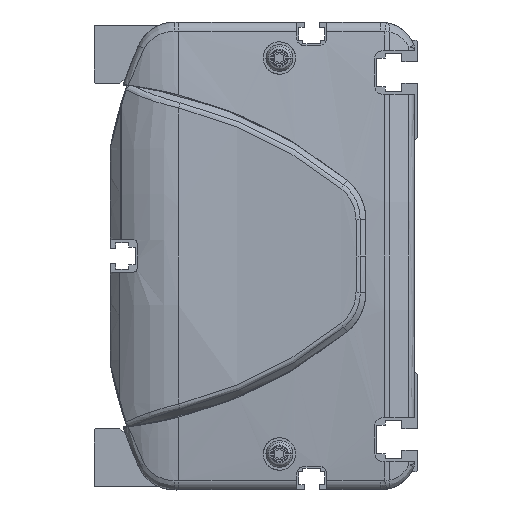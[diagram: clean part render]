
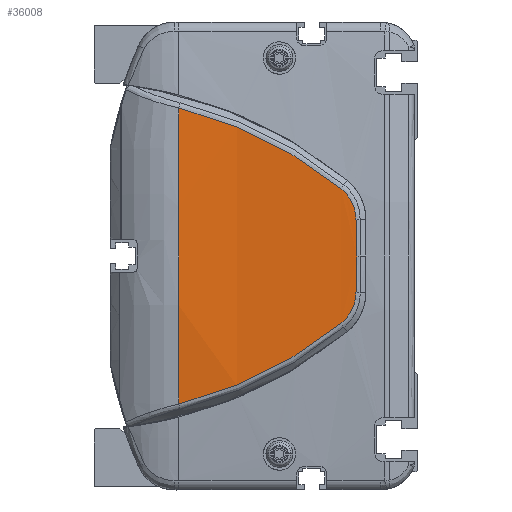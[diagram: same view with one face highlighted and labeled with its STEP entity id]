
A CAD part, left-side view. The second image highlights one B-rep face of the part: STEP entity #36008.
In plain terms, the highlighted cylindrical face has radius 500 mm (diameter 1000 mm), a partial arc.
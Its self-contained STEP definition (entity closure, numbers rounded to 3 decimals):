
#32178=CARTESIAN_POINT('',(486.,66.362,0.));
#32179=DIRECTION('',(0.,-1.,0.));
#32180=DIRECTION('',(-0.997,0.,0.082));
#32181=AXIS2_PLACEMENT_3D('',#32178,#32179,#32180);
#33068=CARTESIAN_POINT('',(-13.648,21.313,
-18.759));
#33069=CARTESIAN_POINT('',(-13.449,27.904,
-24.058));
#33070=CARTESIAN_POINT('',(-12.934,42.195,
-33.27));
#33071=CARTESIAN_POINT('',(-12.471,58.156,
-39.127));
#33072=CARTESIAN_POINT('',(-12.306,66.362,
-41.121));
#33074=CARTESIAN_POINT('',(-12.306,66.362,
41.121));
#33075=CARTESIAN_POINT('',(-12.471,58.156,
39.127));
#33076=CARTESIAN_POINT('',(-12.934,42.195,
33.27));
#33077=CARTESIAN_POINT('',(-13.449,27.904,
24.058));
#33078=CARTESIAN_POINT('',(-13.648,21.313,
18.759));
#33080=CARTESIAN_POINT('',(-13.648,21.313,
18.759));
#33081=CARTESIAN_POINT('',(-13.686,20.035,
17.736));
#33082=CARTESIAN_POINT('',(-13.779,17.936,
15.107));
#33083=CARTESIAN_POINT('',(-13.863,17.152,
11.827));
#33084=CARTESIAN_POINT('',(-13.896,17.124,
10.178));
#33086=CARTESIAN_POINT('',(-13.896,17.124,
10.178));
#33087=CARTESIAN_POINT('',(-13.92,17.107,
9.024));
#33088=CARTESIAN_POINT('',(-13.959,17.067,
6.73));
#33089=CARTESIAN_POINT('',(-13.993,16.979,
3.336));
#33090=CARTESIAN_POINT('',(-14.,16.898,
1.107));
#33091=CARTESIAN_POINT('',(-14.,16.849,
0.));
#33093=CARTESIAN_POINT('',(-14.,16.849,
0.));
#33094=CARTESIAN_POINT('',(-14.,16.898,
-1.107));
#33095=CARTESIAN_POINT('',(-13.993,16.979,
-3.336));
#33096=CARTESIAN_POINT('',(-13.959,17.067,
-6.73));
#33097=CARTESIAN_POINT('',(-13.92,17.107,
-9.026));
#33098=CARTESIAN_POINT('',(-13.896,17.124,
-10.18));
#33100=CARTESIAN_POINT('',(-13.896,17.124,
-10.18));
#33101=CARTESIAN_POINT('',(-13.863,17.152,
-11.828));
#33102=CARTESIAN_POINT('',(-13.779,17.937,
-15.109));
#33103=CARTESIAN_POINT('',(-13.686,20.035,
-17.736));
#33104=CARTESIAN_POINT('',(-13.648,21.313,
-18.759));
#33787=VERTEX_POINT('',#33068);
#33788=VERTEX_POINT('',#33072);
#33789=CARTESIAN_POINT('',(-12.306,66.362,
41.121));
#33790=VERTEX_POINT('',#33789);
#33791=VERTEX_POINT('',#33078);
#33792=VERTEX_POINT('',#33084);
#33793=VERTEX_POINT('',#33091);
#33794=VERTEX_POINT('',#33098);
#35989=CARTESIAN_POINT('',(486.,8.006,0.));
#35990=DIRECTION('',(0.,1.,0.));
#35991=DIRECTION('',(1.,0.,0.));
#35992=AXIS2_PLACEMENT_3D('',#35989,#35990,#35991);
#35993=CYLINDRICAL_SURFACE('',#35992,500.);
#35995=ORIENTED_EDGE('',*,*,#35994,.T.);
#35996=ORIENTED_EDGE('',*,*,#34641,.F.);
#35998=ORIENTED_EDGE('',*,*,#35997,.T.);
#36000=ORIENTED_EDGE('',*,*,#35999,.T.);
#36002=ORIENTED_EDGE('',*,*,#36001,.T.);
#36004=ORIENTED_EDGE('',*,*,#36003,.T.);
#36005=ORIENTED_EDGE('',*,*,#35979,.T.);
#36006=EDGE_LOOP('',(#35995,#35996,#35998,#36000,#36002,#36004,#36005));
#36007=FACE_OUTER_BOUND('',#36006,.F.);
#36008=ADVANCED_FACE('',(#36007),#35993,.T.);
#32182=CIRCLE('',#32181,500.);
#33073=B_SPLINE_CURVE_WITH_KNOTS('',3,(#33068,#33069,#33070,#33071,#33072),
.UNSPECIFIED.,.F.,.F.,(4,1,4),(0.,0.5,1.),.UNSPECIFIED.);
#33079=B_SPLINE_CURVE_WITH_KNOTS('',3,(#33074,#33075,#33076,#33077,#33078),
.UNSPECIFIED.,.F.,.F.,(4,1,4),(0.,0.5,1.),.UNSPECIFIED.);
#33085=B_SPLINE_CURVE_WITH_KNOTS('',3,(#33080,#33081,#33082,#33083,#33084),
.UNSPECIFIED.,.F.,.F.,(4,1,4),(0.,0.5,1.),.UNSPECIFIED.);
#33092=B_SPLINE_CURVE_WITH_KNOTS('',3,(#33086,#33087,#33088,#33089,#33090,
#33091),.UNSPECIFIED.,.F.,.F.,(4,1,1,4),(0.,0.333,
0.667,1.),.UNSPECIFIED.);
#33099=B_SPLINE_CURVE_WITH_KNOTS('',3,(#33093,#33094,#33095,#33096,#33097,
#33098),.UNSPECIFIED.,.F.,.F.,(4,1,1,4),(0.,0.333,
0.667,1.),.UNSPECIFIED.);
#33105=B_SPLINE_CURVE_WITH_KNOTS('',3,(#33100,#33101,#33102,#33103,#33104),
.UNSPECIFIED.,.F.,.F.,(4,1,4),(0.,0.5,1.),.UNSPECIFIED.);
#34641=EDGE_CURVE('',#33790,#33788,#32182,.T.);
#35979=EDGE_CURVE('',#33794,#33787,#33105,.T.);
#35994=EDGE_CURVE('',#33787,#33788,#33073,.T.);
#35997=EDGE_CURVE('',#33790,#33791,#33079,.T.);
#35999=EDGE_CURVE('',#33791,#33792,#33085,.T.);
#36001=EDGE_CURVE('',#33792,#33793,#33092,.T.);
#36003=EDGE_CURVE('',#33793,#33794,#33099,.T.);
